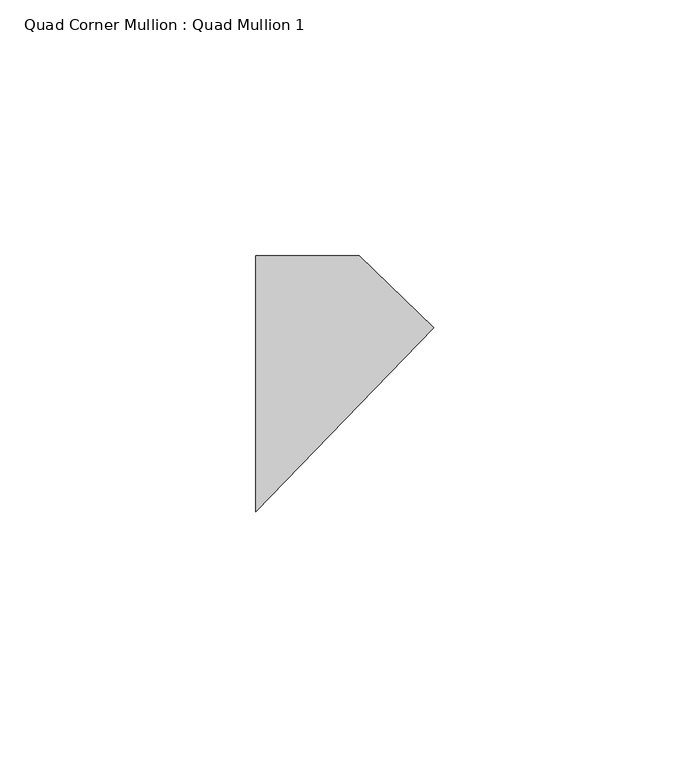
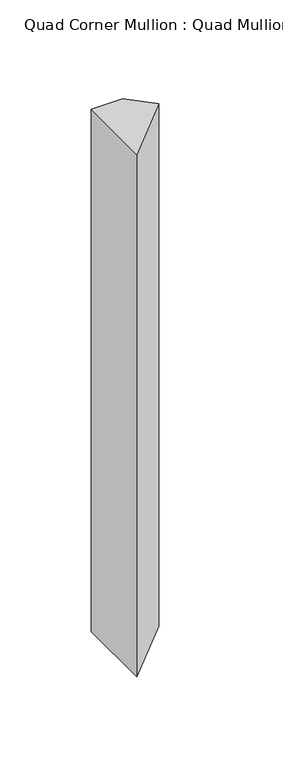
"""IFC4 building model written with IfcOpenShell, lengths in millimetres: member geometry, Quad Corner Mullion : Quad Mullion 1."""

from ifc_helpers import new_model, si_unit, frame, origin, place, context, project, spatial, polyline, outline, extrude, source, transform, mapped, element, save


def quad_corner_mullion_quad_mullion_1_059b8c14(model_context):
    return source(origin(), model_context, "Body", "SweptSolid", [
        extrude(outline(polyline([(24.6322629, 10.96699), (-10.1006556, -25.0), (-10.1006556, 25.0), (10.1006556, 25.0), (24.6322629, 10.96699)])), frame((0.0, 0.0, -350.0), z_axis=(0.0, 0.0, 1.0), x_axis=(1.0, 0.0, 0.0)), (0.0, 0.0, 1.0), 350.0),
    ])


if __name__ == "__main__":
    model = new_model("IFC4")
    model_context = context("Model", 3, world=origin())
    ifc_project = project(units=[si_unit("LENGTHUNIT", "METRE", prefix="MILLI")], contexts=[model_context])
    site = spatial("IfcSite", under=ifc_project)
    building = spatial("IfcBuilding", under=site)
    placement = place(None, origin())
    quad_corner_mullion_quad_mullion_1_shape = quad_corner_mullion_quad_mullion_1_059b8c14(model_context)
    element("IfcMember", 1, ObjectType="Quad Corner Mullion : Quad Mullion 1", at=placement, inside=building, context=model_context, shape_type="MappedRepresentation", body=[
        mapped(quad_corner_mullion_quad_mullion_1_shape, transform((0.0, 0.0, 0.0), x_axis=(1.0, 0.0, 0.0), y_axis=(0.0, 1.0, 0.0), z_axis=(0.0, 0.0, 1.0))),
    ])
    save(model, "model.ifc")
